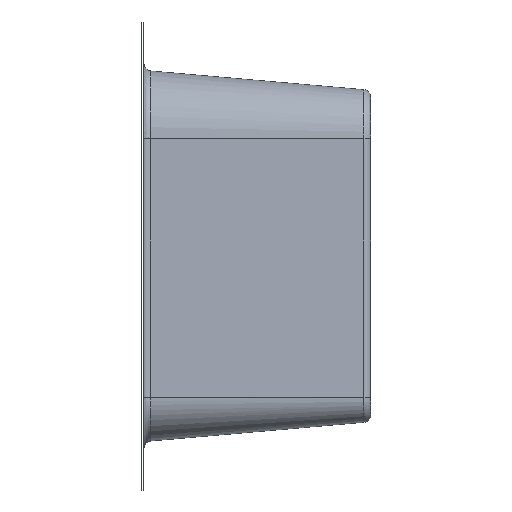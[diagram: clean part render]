
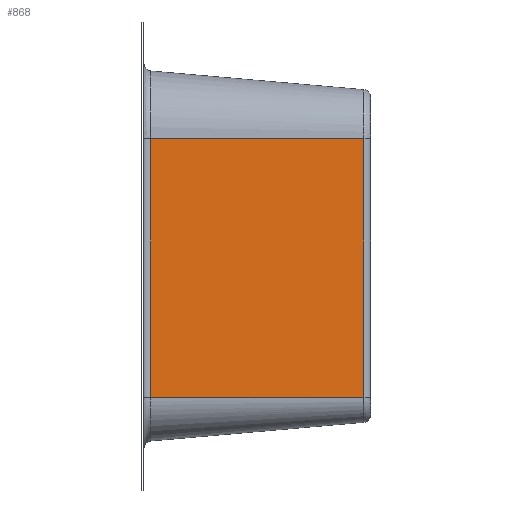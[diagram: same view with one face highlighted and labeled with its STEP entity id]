
A CAD part, left-side view. The second image highlights one B-rep face of the part: STEP entity #868.
In plain terms, the highlighted free-form (B-spline) face has degree [5, 1] with [6, 2] control points.
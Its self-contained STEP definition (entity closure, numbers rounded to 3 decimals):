
#273=CARTESIAN_POINT('Vertex',(-0.24,2.739,117.)) ;
#276=CARTESIAN_POINT('Line Origine',(-0.24,2.739,69.586)) ;
#280=CARTESIAN_POINT('Vertex',(-0.24,2.739,10.)) ;
#822=CARTESIAN_POINT('Control Point',(-8.193,93.642,10.)) ;
#823=CARTESIAN_POINT('Control Point',(0.,0.,10.)) ;
#824=CARTESIAN_POINT('Control Point',(-8.193,93.642,31.4)) ;
#825=CARTESIAN_POINT('Control Point',(0.,0.,31.4)) ;
#826=CARTESIAN_POINT('Control Point',(-8.193,93.642,52.8)) ;
#827=CARTESIAN_POINT('Control Point',(0.,0.,52.8)) ;
#828=CARTESIAN_POINT('Control Point',(-8.193,93.642,74.2)) ;
#829=CARTESIAN_POINT('Control Point',(0.,0.,74.2)) ;
#830=CARTESIAN_POINT('Control Point',(-8.193,93.642,95.6)) ;
#831=CARTESIAN_POINT('Control Point',(0.,0.,95.6)) ;
#832=CARTESIAN_POINT('Control Point',(-8.193,93.642,117.)) ;
#833=CARTESIAN_POINT('Control Point',(0.,0.,117.)) ;
#835=CARTESIAN_POINT('Control Point',(-7.953,90.904,117.)) ;
#836=CARTESIAN_POINT('Control Point',(-6.41,73.271,117.)) ;
#837=CARTESIAN_POINT('Control Point',(-4.868,55.638,117.)) ;
#838=CARTESIAN_POINT('Control Point',(-3.325,38.005,117.)) ;
#839=CARTESIAN_POINT('Control Point',(-1.782,20.372,117.)) ;
#840=CARTESIAN_POINT('Control Point',(-0.24,2.739,117.)) ;
#841=CARTESIAN_POINT('Vertex',(-7.953,90.904,117.)) ;
#845=CARTESIAN_POINT('Control Point',(-7.953,90.904,10.)) ;
#846=CARTESIAN_POINT('Control Point',(-7.953,90.904,31.4)) ;
#847=CARTESIAN_POINT('Control Point',(-7.953,90.904,52.8)) ;
#848=CARTESIAN_POINT('Control Point',(-7.953,90.904,74.2)) ;
#849=CARTESIAN_POINT('Control Point',(-7.953,90.904,95.6)) ;
#850=CARTESIAN_POINT('Control Point',(-7.953,90.904,117.)) ;
#851=CARTESIAN_POINT('Vertex',(-7.953,90.904,10.)) ;
#855=CARTESIAN_POINT('Control Point',(-7.953,90.904,10.)) ;
#856=CARTESIAN_POINT('Control Point',(-6.41,73.271,10.)) ;
#857=CARTESIAN_POINT('Control Point',(-4.868,55.638,10.)) ;
#858=CARTESIAN_POINT('Control Point',(-3.325,38.005,10.)) ;
#859=CARTESIAN_POINT('Control Point',(-1.782,20.372,10.)) ;
#860=CARTESIAN_POINT('Control Point',(-0.24,2.739,10.)) ;
#277=DIRECTION('Vector Direction',(0.,0.,1.)) ;
#863=ORIENTED_EDGE('',*,*,#282,.F.) ;
#864=ORIENTED_EDGE('',*,*,#843,.F.) ;
#865=ORIENTED_EDGE('',*,*,#853,.F.) ;
#866=ORIENTED_EDGE('',*,*,#861,.T.) ;
#278=VECTOR('Line Direction',#277,1.) ;
#868=ADVANCED_FACE('base',(#867),#821,.F.) ;
#834=B_SPLINE_CURVE_WITH_KNOTS('',5,(#835,#836,#837,#838,#839,#840),.UNSPECIFIED.,.F.,.U.,(6,6),(2.749,91.251),.UNSPECIFIED.) ;
#844=B_SPLINE_CURVE_WITH_KNOTS('',5,(#845,#846,#847,#848,#849,#850),.UNSPECIFIED.,.F.,.U.,(6,6),(0.,107.),.UNSPECIFIED.) ;
#854=B_SPLINE_CURVE_WITH_KNOTS('',5,(#855,#856,#857,#858,#859,#860),.UNSPECIFIED.,.F.,.U.,(6,6),(2.749,91.251),.UNSPECIFIED.) ;
#821=B_SPLINE_SURFACE_WITH_KNOTS('',5,1,((#822,#823),(#824,#825),(#826,#827),(#828,#829),(#830,#831),(#832,#833)),.UNSPECIFIED.,.F.,.F.,.U.,(6,6),(2,2),(0.,107.),(0.,94.),.UNSPECIFIED.) ;
#282=EDGE_CURVE('',#274,#281,#279,.F.) ;
#843=EDGE_CURVE('',#842,#274,#834,.T.) ;
#853=EDGE_CURVE('',#852,#842,#844,.T.) ;
#861=EDGE_CURVE('',#852,#281,#854,.T.) ;
#862=EDGE_LOOP('',(#863,#864,#865,#866)) ;
#867=FACE_OUTER_BOUND('',#862,.T.) ;
#279=LINE('Line',#276,#278) ;
#274=VERTEX_POINT('',#273) ;
#281=VERTEX_POINT('',#280) ;
#842=VERTEX_POINT('',#841) ;
#852=VERTEX_POINT('',#851) ;
